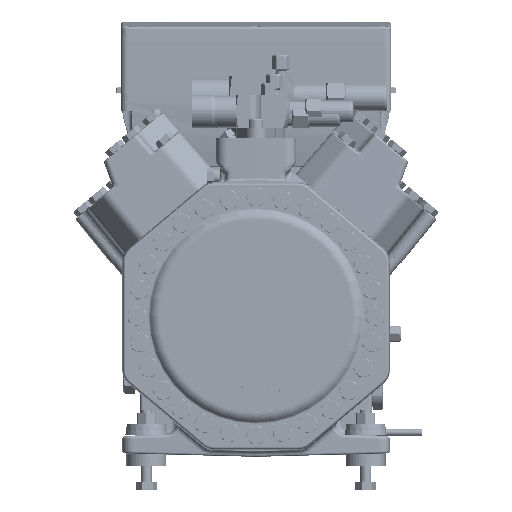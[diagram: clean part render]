
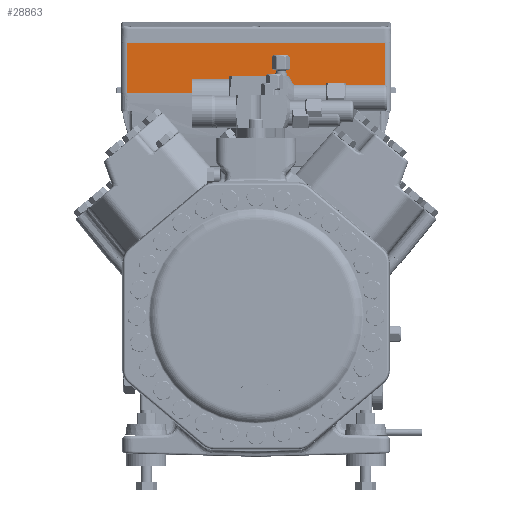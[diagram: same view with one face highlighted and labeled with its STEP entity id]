
A CAD part, front view. The second image highlights one B-rep face of the part: STEP entity #28863.
In plain terms, the highlighted planar face has unit normal (0, -1, 0) as drawn and (1, 0, 0) by its records, which use the part's own axes.
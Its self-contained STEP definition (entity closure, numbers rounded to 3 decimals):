
#14437=FACE_OUTER_BOUND('',#54585,.T.);
#28863=ADVANCED_FACE('',(#14437),#32643,.T.);
#32643=PLANE('',#141509);
#37785=LINE('',#250027,#43500);
#37885=LINE('',#250657,#43600);
#37886=LINE('',#250660,#43601);
#37887=LINE('',#250661,#43602);
#43500=VECTOR('',#168796,1.);
#43600=VECTOR('',#169080,1.);
#43601=VECTOR('',#169081,1.);
#43602=VECTOR('',#169082,1.);
#54585=EDGE_LOOP('',(#85639,#85640,#85641,#85642));
#85639=ORIENTED_EDGE('',*,*,#121126,.F.);
#85640=ORIENTED_EDGE('',*,*,#121127,.T.);
#85641=ORIENTED_EDGE('',*,*,#120930,.T.);
#85642=ORIENTED_EDGE('',*,*,#121128,.T.);
#103465=VERTEX_POINT('',#250026);
#103466=VERTEX_POINT('',#250028);
#103644=VERTEX_POINT('',#250658);
#103645=VERTEX_POINT('',#250659);
#120930=EDGE_CURVE('',#103466,#103465,#37785,.T.);
#121126=EDGE_CURVE('',#103644,#103645,#37885,.T.);
#121127=EDGE_CURVE('',#103644,#103466,#37886,.T.);
#121128=EDGE_CURVE('',#103465,#103645,#37887,.T.);
#141509=AXIS2_PLACEMENT_3D('',#250662,#169083,#169084);
#168796=DIRECTION('',(0.,1.,0.));
#169080=DIRECTION('',(0.,1.,0.));
#169081=DIRECTION('',(0.,0.,-1.));
#169082=DIRECTION('',(0.,0.,1.));
#169083=DIRECTION('',(1.,0.,0.));
#169084=DIRECTION('',(0.,0.,1.));
#250026=CARTESIAN_POINT('',(73.,116.,66.));
#250027=CARTESIAN_POINT('',(73.,0.,66.));
#250028=CARTESIAN_POINT('',(73.,-116.,66.));
#250657=CARTESIAN_POINT('',(73.,0.,111.5));
#250658=CARTESIAN_POINT('',(73.,-116.,111.5));
#250659=CARTESIAN_POINT('',(73.,116.,111.5));
#250660=CARTESIAN_POINT('',(73.,-116.,114.));
#250661=CARTESIAN_POINT('',(73.,116.,114.));
#250662=CARTESIAN_POINT('',(73.,0.,114.));
